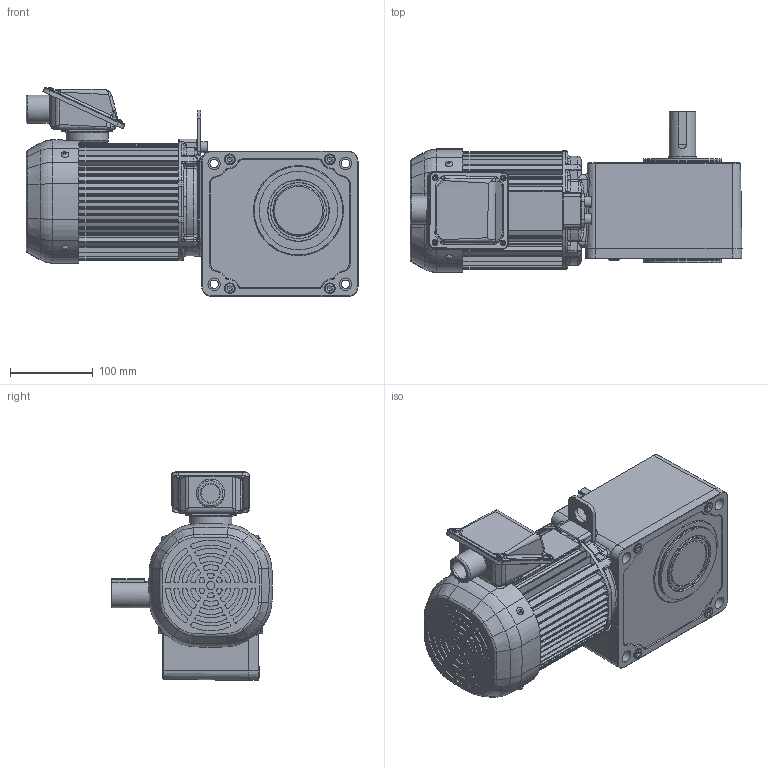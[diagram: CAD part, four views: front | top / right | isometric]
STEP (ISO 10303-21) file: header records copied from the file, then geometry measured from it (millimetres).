
FILE_DESCRIPTION( ( 'Unknown' ), '1' );
FILE_NAME( 'W:/gm/3D-WEB/GV-SHY/完成品/パーツ/完成品/完成品(GV-SHY_ﾌｪｰｽﾏｳﾝﾄ取付_1.5kW_ﾌﾞﾚｰｷ無_C).stp', 'Unknown', ( 'Unknown' ), ( 'Unknown' ), 'PSStep 11.0', 'Unknown', ' ' );
FILE_SCHEMA( ( 'AUTOMOTIVE_DESIGN { 1 0 10303 214 1 1 1 1 }' ) );
Length unit declared in the file: millimetre
Products named in the file (7): P265322H10_ 衛偯枆參
Bounding box: 401.59 x 194.71 x 253.02 mm (x, y, z)
Volume: 5525322.6 mm3; surface area: 592396.4 mm2
Topology: 7 solids, 20 shells, 1669 faces, 4182 edges, 2641 vertices
Faces by surface type: cylinder 714, plane 638, bspline 118, cone 102, torus 89, sphere 8
Full cylindrical faces by diameter (mm): 3.8 x4, 4 x6, 4.2 x8, 4.5 x16, 5.5 x8, 5.8 x4, 6 x8, 6.647 x3, 7 x4, 8 x2, 8.2 x1, 10 x4, 10.106 x4, 13 x6, 15 x4, 20 x1, 22 x1, 23 x1, 24.117 x2, 25 x2, 32 x1, 34 x2, 34.1 x1, 40 x1, 48 x2, 50 x2, 50.1 x1, 51.2 x1, 54 x1, 55.8 x1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
Entity records: 78519 total; most frequent: CARTESIAN_POINT 26255, DIRECTION 8355, ORIENTED_EDGE 7770, EDGE_CURVE 3885, AXIS2_PLACEMENT_3D 3273, VERTEX_POINT 2559, EDGE_LOOP 2003, FACE_OUTER_BOUND 1810
